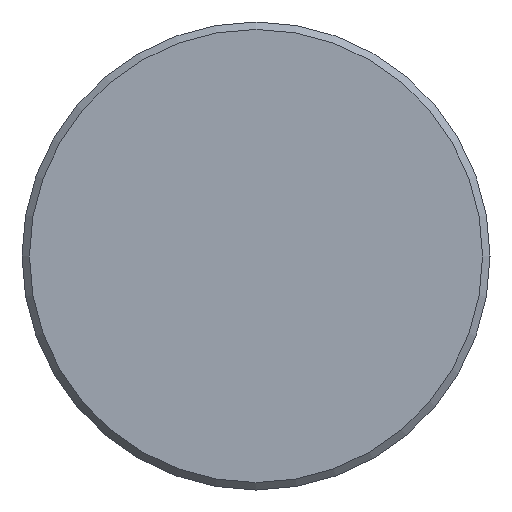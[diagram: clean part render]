
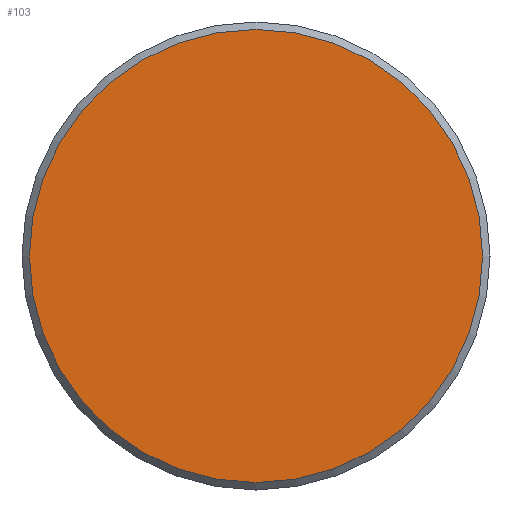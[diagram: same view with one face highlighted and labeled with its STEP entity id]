
A CAD part, left-side view. The second image highlights one B-rep face of the part: STEP entity #103.
In plain terms, the highlighted planar face has unit normal (-1, 0, 0).
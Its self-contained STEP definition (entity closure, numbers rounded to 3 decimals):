
#16=PLANE('',#138);
#30=FACE_OUTER_BOUND('',#36,.T.);
#36=EDGE_LOOP('',(#89));
#45=CIRCLE('',#137,30.5);
#53=VERTEX_POINT('',#197);
#65=EDGE_CURVE('',#53,#53,#45,.T.);
#89=ORIENTED_EDGE('',*,*,#65,.F.);
#103=ADVANCED_FACE('',(#30),#16,.F.);
#137=AXIS2_PLACEMENT_3D('',#199,#170,#171);
#138=AXIS2_PLACEMENT_3D('',#200,#172,#173);
#170=DIRECTION('center_axis',(1.,0.,0.));
#171=DIRECTION('ref_axis',(0.,-1.,0.));
#172=DIRECTION('center_axis',(1.,0.,0.));
#173=DIRECTION('ref_axis',(0.,0.,-1.));
#197=CARTESIAN_POINT('',(0.,30.5,0.));
#199=CARTESIAN_POINT('Origin',(0.,0.,0.));
#200=CARTESIAN_POINT('Origin',(0.,0.,0.));
